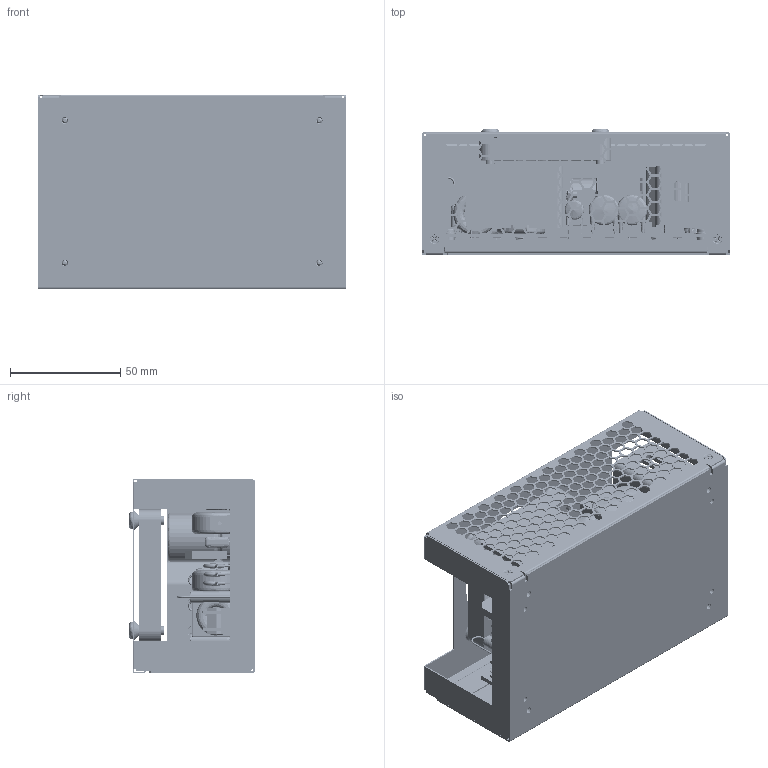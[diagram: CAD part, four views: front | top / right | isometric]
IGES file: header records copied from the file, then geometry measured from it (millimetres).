
Start section: SolidWorks IGES file using analytic representation for surfaces
Global section: file name: G:\SolidWorks\Common\GCS150\SW\10014366\GCS150PSXX WITH TOP FAN IGES.IGS; native system: SolidWorks 2012; preprocessor: SolidWorks 2012; author: KEVYOU; date: 130711.133928; units: inch
Bounding box: 139.7 x 57.07 x 88.5 mm (x, y, z)
Surface area: 200020.9 mm2 (no closed solid volume)
Topology: 0 solids, 0 shells, 5661 faces, 54562 edges, 54486 vertices
Faces by surface type: bspline 3622, revolution 2039
